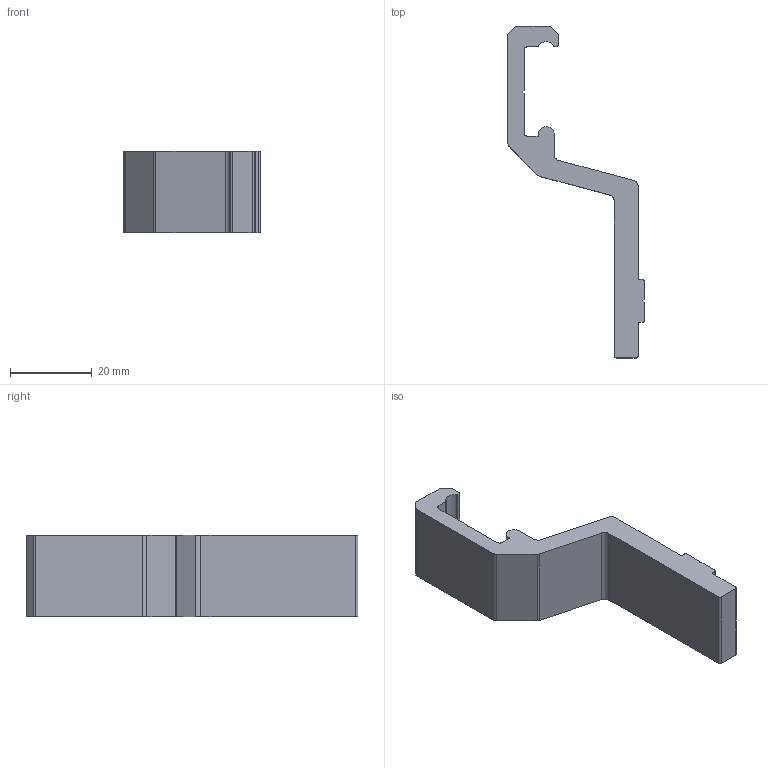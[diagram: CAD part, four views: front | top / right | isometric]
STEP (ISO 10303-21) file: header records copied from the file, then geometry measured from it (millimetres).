
FILE_DESCRIPTION (( 'STEP AP214' ), '1' );
FILE_NAME ('FGRB 28x42.step', '2017-04-05T07:37:47', ( '' ), ( '' ), 'SwSTEP 2.0', 'SolidWorks 2015', '' );
FILE_SCHEMA (( 'AUTOMOTIVE_DESIGN' ));
Length unit declared in the file: millimetre
Products named in the file (1): FGRB 28x42
Bounding box: 33.5 x 81.41 x 20 mm (x, y, z)
Volume: 11718.7 mm3; surface area: 5811.3 mm2
Topology: 1 solids, 1 shells, 50 faces, 144 edges, 96 vertices
Faces by surface type: plane 29, cylinder 21
Entity records: 1684 total; most frequent: CARTESIAN_POINT 291, ORIENTED_EDGE 288, DIRECTION 288, EDGE_CURVE 144, LINE 102, VECTOR 102, VERTEX_POINT 96, AXIS2_PLACEMENT_3D 93
